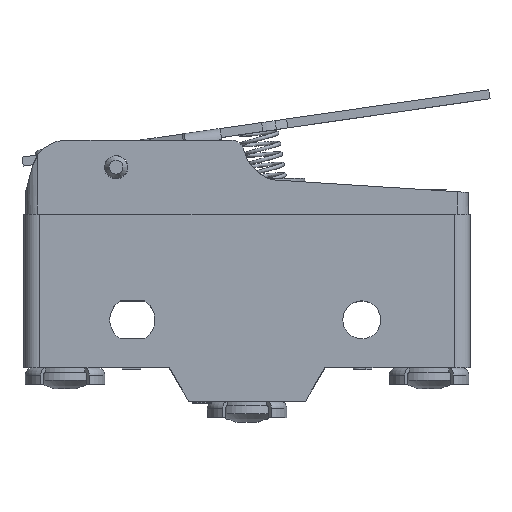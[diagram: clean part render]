
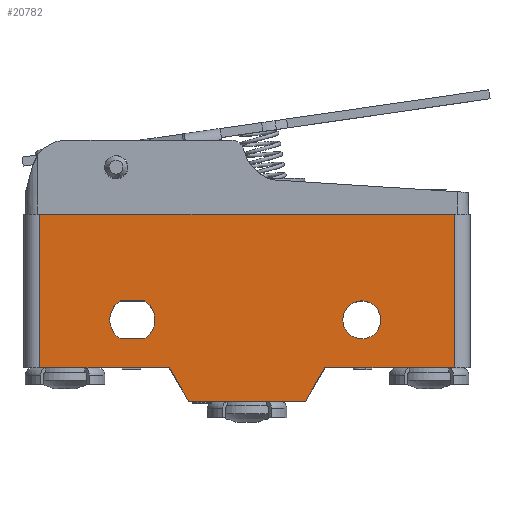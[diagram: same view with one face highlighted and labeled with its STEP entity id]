
A CAD part, top view. The second image highlights one B-rep face of the part: STEP entity #20782.
In plain terms, the highlighted planar face has unit normal (0, 0, 1).
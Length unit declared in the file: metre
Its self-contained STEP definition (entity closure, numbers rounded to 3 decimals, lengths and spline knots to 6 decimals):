
#15808=CARTESIAN_POINT('',(0.007822,-0.007756,0.05825));
#15809=VERTEX_POINT('',#15808);
#15812=CARTESIAN_POINT('',(0.005686,-0.011456,0.05825));
#15813=DIRECTION('',(0.5,0.866,0.));
#15814=VECTOR('',#15813,1.);
#15815=LINE('',#15812,#15814);
#15816=CARTESIAN_POINT('',(0.005686,-0.011456,0.05825));
#15817=VERTEX_POINT('',#15816);
#15818=EDGE_CURVE('',#15817,#15809,#15815,.T.);
#16876=CARTESIAN_POINT('',(-0.007242,-0.011456,0.05825));
#16877=VERTEX_POINT('',#16876);
#16880=CARTESIAN_POINT('',(-0.009378,-0.007756,0.05825));
#16881=DIRECTION('',(0.5,-0.866,0.));
#16882=VECTOR('',#16881,1.);
#16883=LINE('',#16880,#16882);
#16884=CARTESIAN_POINT('',(-0.009378,-0.007756,0.05825));
#16885=VERTEX_POINT('',#16884);
#16886=EDGE_CURVE('',#16885,#16877,#16883,.T.);
#16963=CARTESIAN_POINT('',(-0.023728,0.009244,0.05825));
#16964=VERTEX_POINT('',#16963);
#16973=CARTESIAN_POINT('',(-0.023728,-0.007756,0.05825));
#16974=VERTEX_POINT('',#16973);
#16977=CARTESIAN_POINT('',(-0.023728,-0.003156,0.05825));
#16978=DIRECTION('',(0.,-1.,0.));
#16979=VECTOR('',#16978,1.);
#16980=LINE('',#16977,#16979);
#16981=EDGE_CURVE('',#16964,#16974,#16980,.T.);
#18378=CARTESIAN_POINT('',(-0.025478,-0.007756,0.05825));
#18379=DIRECTION('',(1.,0.,0.));
#18380=VECTOR('',#18379,1.);
#18381=LINE('',#18378,#18380);
#18382=EDGE_CURVE('',#16974,#16885,#18381,.T.);
#18488=CARTESIAN_POINT('',(0.022172,-0.007756,0.05825));
#18489=VERTEX_POINT('',#18488);
#18507=CARTESIAN_POINT('',(0.022172,0.009244,0.05825));
#18508=VERTEX_POINT('',#18507);
#18511=CARTESIAN_POINT('',(0.022172,-0.003156,0.05825));
#18512=DIRECTION('',(0.,1.,0.));
#18513=VECTOR('',#18512,1.);
#18514=LINE('',#18511,#18513);
#18515=EDGE_CURVE('',#18489,#18508,#18514,.T.);
#18625=CARTESIAN_POINT('',(0.023922,0.009244,0.05825));
#18626=DIRECTION('',(-1.,0.,0.));
#18627=VECTOR('',#18626,1.);
#18628=LINE('',#18625,#18627);
#18629=EDGE_CURVE('',#18508,#16964,#18628,.T.);
#20567=CARTESIAN_POINT('',(0.007822,-0.007756,0.05825));
#20568=DIRECTION('',(1.,0.,0.));
#20569=VECTOR('',#20568,1.);
#20570=LINE('',#20567,#20569);
#20571=EDGE_CURVE('',#15809,#18489,#20570,.T.);
#20605=CARTESIAN_POINT('',(-0.014834,-0.000356,0.05825));
#20606=VERTEX_POINT('',#20605);
#20609=CARTESIAN_POINT('',(-0.013478,-0.002456,0.05825));
#20610=DIRECTION('',(0.,0.,1.));
#20611=DIRECTION('',(1.,0.,0.));
#20612=AXIS2_PLACEMENT_3D('',#20609,#20610,#20611);
#20613=CIRCLE('',#20612,0.0025);
#20614=CARTESIAN_POINT('',(-0.014834,-0.004556,0.05825));
#20615=VERTEX_POINT('',#20614);
#20616=EDGE_CURVE('',#20606,#20615,#20613,.T.);
#20649=CARTESIAN_POINT('',(-0.012121,-0.004556,0.05825));
#20650=DIRECTION('',(1.,0.,0.));
#20651=VECTOR('',#20650,1.);
#20652=LINE('',#20649,#20651);
#20653=CARTESIAN_POINT('',(-0.012121,-0.004556,0.05825));
#20654=VERTEX_POINT('',#20653);
#20655=EDGE_CURVE('',#20615,#20654,#20652,.T.);
#20679=CARTESIAN_POINT('',(-0.013478,-0.002456,0.05825));
#20680=DIRECTION('',(0.,0.,1.));
#20681=DIRECTION('',(1.,0.,0.));
#20682=AXIS2_PLACEMENT_3D('',#20679,#20680,#20681);
#20683=CIRCLE('',#20682,0.0025);
#20684=CARTESIAN_POINT('',(-0.012121,-0.000356,0.05825));
#20685=VERTEX_POINT('',#20684);
#20686=EDGE_CURVE('',#20654,#20685,#20683,.T.);
#20721=CARTESIAN_POINT('',(-0.012121,-0.000356,0.05825));
#20722=DIRECTION('',(-1.,0.,0.));
#20723=VECTOR('',#20722,1.);
#20724=LINE('',#20721,#20723);
#20725=EDGE_CURVE('',#20685,#20606,#20724,.T.);
#20745=CARTESIAN_POINT('',(0.012562,-0.003156,0.05825));
#20746=DIRECTION('',(0.,0.,-1.));
#20747=DIRECTION('',(-1.,0.,0.));
#20748=AXIS2_PLACEMENT_3D('',#20745,#20746,#20747);
#20749=PLANE('',#20748);
#20750=ORIENTED_EDGE('',*,*,#20725,.F.);
#20751=ORIENTED_EDGE('',*,*,#20686,.F.);
#20752=ORIENTED_EDGE('',*,*,#20655,.F.);
#20753=ORIENTED_EDGE('',*,*,#20616,.F.);
#20754=EDGE_LOOP('',(#20750,#20751,#20752,#20753));
#20755=FACE_BOUND('',#20754,.T.);
#20756=CARTESIAN_POINT('',(0.011922,-0.002456,0.05825));
#20757=DIRECTION('',(0.,0.,1.));
#20758=DIRECTION('',(1.,0.,0.));
#20759=AXIS2_PLACEMENT_3D('',#20756,#20757,#20758);
#20760=CIRCLE('',#20759,0.0021);
#20761=CARTESIAN_POINT('',(0.009822,-0.002456,0.05825));
#20762=VERTEX_POINT('',#20761);
#20763=EDGE_CURVE('',#20762,#20762,#20760,.T.);
#20764=ORIENTED_EDGE('',*,*,#20763,.F.);
#20765=EDGE_LOOP('',(#20764));
#20766=FACE_BOUND('',#20765,.T.);
#20767=ORIENTED_EDGE('',*,*,#20571,.T.);
#20768=ORIENTED_EDGE('',*,*,#18515,.T.);
#20769=ORIENTED_EDGE('',*,*,#18629,.T.);
#20770=ORIENTED_EDGE('',*,*,#16981,.T.);
#20771=ORIENTED_EDGE('',*,*,#18382,.T.);
#20772=ORIENTED_EDGE('',*,*,#16886,.T.);
#20773=CARTESIAN_POINT('',(-0.007242,-0.011456,0.05825));
#20774=DIRECTION('',(1.,0.,0.));
#20775=VECTOR('',#20774,1.);
#20776=LINE('',#20773,#20775);
#20777=EDGE_CURVE('',#16877,#15817,#20776,.T.);
#20778=ORIENTED_EDGE('',*,*,#20777,.T.);
#20779=ORIENTED_EDGE('',*,*,#15818,.T.);
#20780=EDGE_LOOP('',(#20767,#20768,#20769,#20770,#20771,#20772,#20778,#20779));
#20781=FACE_BOUND('',#20780,.T.);
#20782=ADVANCED_FACE('',(#20755,#20766,#20781),#20749,.F.);
